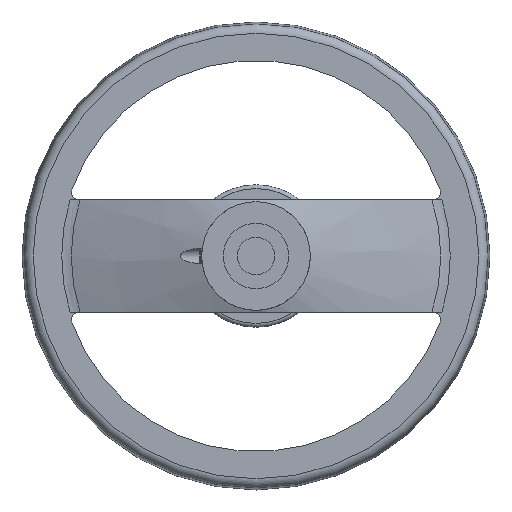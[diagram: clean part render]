
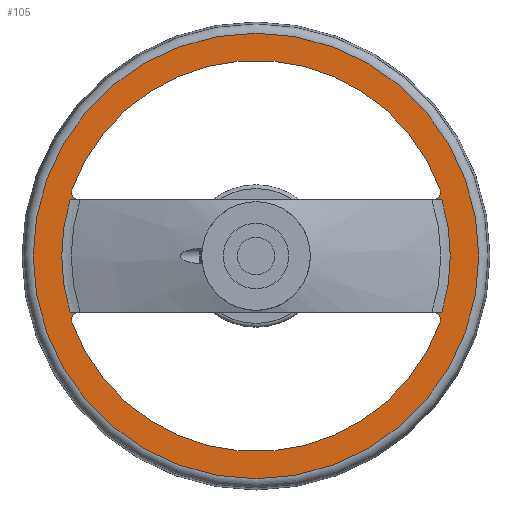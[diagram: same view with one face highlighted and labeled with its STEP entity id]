
A CAD part, left-side view. The second image highlights one B-rep face of the part: STEP entity #105.
In plain terms, the highlighted planar face has unit normal (-1, 0, 0).
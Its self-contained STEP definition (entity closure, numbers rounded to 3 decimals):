
#105 = ADVANCED_FACE( '', ( #214, #215, #216, #217 ), #218, .F. );
#214 = FACE_BOUND( '', #376, .T. );
#215 = FACE_BOUND( '', #377, .T. );
#216 = FACE_OUTER_BOUND( '', #378, .T. );
#217 = FACE_BOUND( '', #379, .T. );
#218 = PLANE( '', #380 );
#376 = EDGE_LOOP( '', ( #654, #655, #656, #657 ) );
#377 = EDGE_LOOP( '', ( #658, #659, #660, #661 ) );
#378 = EDGE_LOOP( '', ( #662 ) );
#379 = EDGE_LOOP( '', ( #663, #664, #665, #666 ) );
#380 = AXIS2_PLACEMENT_3D( '', #667, #668, #669 );
#654 = ORIENTED_EDGE( '', *, *, #924, .F. );
#655 = ORIENTED_EDGE( '', *, *, #868, .F. );
#656 = ORIENTED_EDGE( '', *, *, #872, .F. );
#657 = ORIENTED_EDGE( '', *, *, #925, .F. );
#658 = ORIENTED_EDGE( '', *, *, #912, .F. );
#659 = ORIENTED_EDGE( '', *, *, #926, .F. );
#660 = ORIENTED_EDGE( '', *, *, #892, .F. );
#661 = ORIENTED_EDGE( '', *, *, #887, .F. );
#662 = ORIENTED_EDGE( '', *, *, #927, .T. );
#663 = ORIENTED_EDGE( '', *, *, #903, .F. );
#664 = ORIENTED_EDGE( '', *, *, #907, .F. );
#665 = ORIENTED_EDGE( '', *, *, #909, .F. );
#666 = ORIENTED_EDGE( '', *, *, #910, .F. );
#667 = CARTESIAN_POINT( '', ( 38., -118.889, 0. ) );
#668 = DIRECTION( '', ( 1., 0., 0. ) );
#669 = DIRECTION( '', ( 0., 0., -1. ) );
#868 = EDGE_CURVE( '', #985, #987, #988, .T. );
#872 = EDGE_CURVE( '', #992, #985, #994, .T. );
#887 = EDGE_CURVE( '', #1022, #1023, #1024, .F. );
#892 = EDGE_CURVE( '', #1023, #1032, #1033, .F. );
#903 = EDGE_CURVE( '', #1049, #1051, #1052, .F. );
#907 = EDGE_CURVE( '', #1055, #1049, #1057, .F. );
#909 = EDGE_CURVE( '', #1058, #1055, #1060, .F. );
#910 = EDGE_CURVE( '', #1051, #1058, #1061, .T. );
#912 = EDGE_CURVE( '', #1062, #1022, #1064, .F. );
#924 = EDGE_CURVE( '', #987, #1083, #1084, .T. );
#925 = EDGE_CURVE( '', #1083, #992, #1085, .T. );
#926 = EDGE_CURVE( '', #1032, #1062, #1086, .T. );
#927 = EDGE_CURVE( '', #1087, #1087, #1088, .T. );
#985 = VERTEX_POINT( '', #1243 );
#987 = VERTEX_POINT( '', #1252 );
#988 = LINE( '', #1253, #1254 );
#992 = VERTEX_POINT( '', #1265 );
#994 = CIRCLE( '', #1274, 103.673 );
#1022 = VERTEX_POINT( '', #1343 );
#1023 = VERTEX_POINT( '', #1344 );
#1024 = CIRCLE( '', #1345, 104.4 );
#1032 = VERTEX_POINT( '', #1377 );
#1033 = CIRCLE( '', #1378, 4. );
#1049 = VERTEX_POINT( '', #1509 );
#1051 = VERTEX_POINT( '', #1512 );
#1052 = CIRCLE( '', #1513, 4. );
#1055 = VERTEX_POINT( '', #1517 );
#1057 = CIRCLE( '', #1520, 104.4 );
#1058 = VERTEX_POINT( '', #1521 );
#1060 = CIRCLE( '', #1524, 4. );
#1061 = LINE( '', #1525, #1526 );
#1062 = VERTEX_POINT( '', #1527 );
#1064 = CIRCLE( '', #1530, 4. );
#1083 = VERTEX_POINT( '', #1654 );
#1084 = CIRCLE( '', #1655, 103.673 );
#1085 = LINE( '', #1656, #1657 );
#1086 = LINE( '', #1658, #1659 );
#1087 = VERTEX_POINT( '', #1660 );
#1088 = CIRCLE( '', #1661, 118.889 );
#1243 = CARTESIAN_POINT( '', ( 38., 99.238, -29.999 ) );
#1252 = CARTESIAN_POINT( '', ( 38., -99.238, -29.999 ) );
#1253 = CARTESIAN_POINT( '', ( 38., 250., -29.999 ) );
#1254 = VECTOR( '', #1767, 1000. );
#1265 = CARTESIAN_POINT( '', ( 38., 99.238, 29.999 ) );
#1274 = AXIS2_PLACEMENT_3D( '', #1771, #1772, #1773 );
#1343 = CARTESIAN_POINT( '', ( 38., 98.231, -35.355 ) );
#1344 = CARTESIAN_POINT( '', ( 38., -98.231, -35.355 ) );
#1345 = AXIS2_PLACEMENT_3D( '', #1807, #1808, #1809 );
#1377 = CARTESIAN_POINT( '', ( 38., -94.468, -30. ) );
#1378 = AXIS2_PLACEMENT_3D( '', #1815, #1816, #1817 );
#1509 = CARTESIAN_POINT( '', ( 38., 98.231, 35.355 ) );
#1512 = CARTESIAN_POINT( '', ( 38., 94.468, 30. ) );
#1513 = AXIS2_PLACEMENT_3D( '', #1829, #1830, #1831 );
#1517 = CARTESIAN_POINT( '', ( 38., -98.231, 35.355 ) );
#1520 = AXIS2_PLACEMENT_3D( '', #1837, #1838, #1839 );
#1521 = CARTESIAN_POINT( '', ( 38., -94.468, 30. ) );
#1524 = AXIS2_PLACEMENT_3D( '', #1841, #1842, #1843 );
#1525 = CARTESIAN_POINT( '', ( 38., -118.889, 30. ) );
#1526 = VECTOR( '', #1844, 1000. );
#1527 = CARTESIAN_POINT( '', ( 38., 94.468, -30. ) );
#1530 = AXIS2_PLACEMENT_3D( '', #1846, #1847, #1848 );
#1654 = CARTESIAN_POINT( '', ( 38., -99.238, 29.999 ) );
#1655 = AXIS2_PLACEMENT_3D( '', #1867, #1868, #1869 );
#1656 = CARTESIAN_POINT( '', ( 38., -250., 29.999 ) );
#1657 = VECTOR( '', #1870, 1000. );
#1658 = CARTESIAN_POINT( '', ( 38., -118.889, -30. ) );
#1659 = VECTOR( '', #1871, 1000. );
#1660 = CARTESIAN_POINT( '', ( 38., 0., 118.889 ) );
#1661 = AXIS2_PLACEMENT_3D( '', #1872, #1873, #1874 );
#1767 = DIRECTION( '', ( 0., -1., 0. ) );
#1771 = CARTESIAN_POINT( '', ( 38., 0., 0. ) );
#1772 = DIRECTION( '', ( -1., 0., 0. ) );
#1773 = DIRECTION( '', ( 0., 0., 1. ) );
#1807 = CARTESIAN_POINT( '', ( 38., 0., 0. ) );
#1808 = DIRECTION( '', ( 1., 0., 0. ) );
#1809 = DIRECTION( '', ( 0., 0., -1. ) );
#1815 = CARTESIAN_POINT( '', ( 38., -94.468, -34. ) );
#1816 = DIRECTION( '', ( 1., 0., 0. ) );
#1817 = DIRECTION( '', ( 0., 0., -1. ) );
#1829 = CARTESIAN_POINT( '', ( 38., 94.468, 34. ) );
#1830 = DIRECTION( '', ( 1., 0., 0. ) );
#1831 = DIRECTION( '', ( 0., 0., -1. ) );
#1837 = CARTESIAN_POINT( '', ( 38., 0., 0. ) );
#1838 = DIRECTION( '', ( 1., 0., 0. ) );
#1839 = DIRECTION( '', ( 0., 0., -1. ) );
#1841 = CARTESIAN_POINT( '', ( 38., -94.468, 34. ) );
#1842 = DIRECTION( '', ( 1., 0., 0. ) );
#1843 = DIRECTION( '', ( 0., 0., -1. ) );
#1844 = DIRECTION( '', ( 0., -1., 0. ) );
#1846 = CARTESIAN_POINT( '', ( 38., 94.468, -34. ) );
#1847 = DIRECTION( '', ( 1., 0., 0. ) );
#1848 = DIRECTION( '', ( 0., 0., -1. ) );
#1867 = CARTESIAN_POINT( '', ( 38., 0., 0. ) );
#1868 = DIRECTION( '', ( -1., 0., 0. ) );
#1869 = DIRECTION( '', ( 0., 0., 1. ) );
#1870 = DIRECTION( '', ( 0., 1., 0. ) );
#1871 = DIRECTION( '', ( 0., 1., 0. ) );
#1872 = CARTESIAN_POINT( '', ( 38., 0., 0. ) );
#1873 = DIRECTION( '', ( -1., 0., 0. ) );
#1874 = DIRECTION( '', ( 0., 0., 1. ) );
